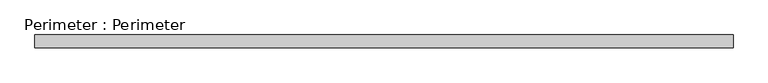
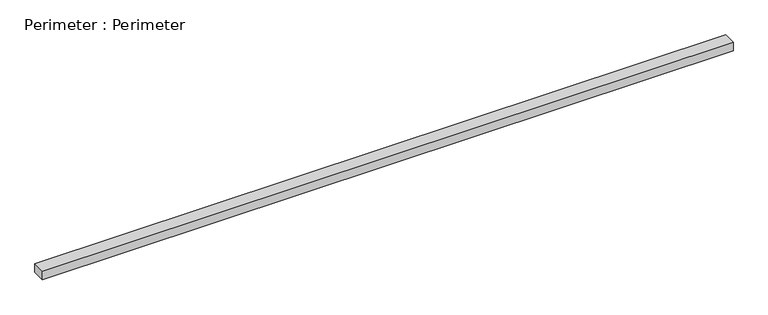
"""IFC4 building model written with IfcOpenShell, lengths in millimetres: proxy geometry, Perimeter : Perimeter."""

from ifc_helpers import new_model, si_unit, origin, origin_with_axes, place, context, project, spatial, polyline, outline, extrude, source, transform, mapped, element, save


def perimeter_perimeter_b49f30dc(model_context):
    return source(origin(), model_context, "Body", "SweptSolid", [
        extrude(outline(polyline([(5653.5006347, 210.0), (5653.5006347, 0.0), (-5653.5006347, 0.0), (-5653.5006347, 210.0), (5653.5006347, 210.0)])), origin_with_axes(), (0.0, 0.0, 1.0), 150.0),
    ])


if __name__ == "__main__":
    model = new_model("IFC4")
    model_context = context("Model", 3, world=origin())
    ifc_project = project(units=[si_unit("LENGTHUNIT", "METRE", prefix="MILLI")], contexts=[model_context])
    site = spatial("IfcSite", under=ifc_project)
    building = spatial("IfcBuilding", under=site)
    placement = place(None, origin())
    perimeter_perimeter_shape = perimeter_perimeter_b49f30dc(model_context)
    element("IfcBuildingElementProxy", 1, Name="Perimeter : Perimeter", ObjectType="Perimeter : Perimeter", at=placement, inside=building, context=model_context, shape_type="MappedRepresentation", body=[
        mapped(perimeter_perimeter_shape, transform((0.0, 0.0, 0.0), x_axis=(1.0, 0.0, 0.0), y_axis=(0.0, 1.0, 0.0), z_axis=(0.0, 0.0, 1.0))),
    ])
    save(model, "model.ifc")
